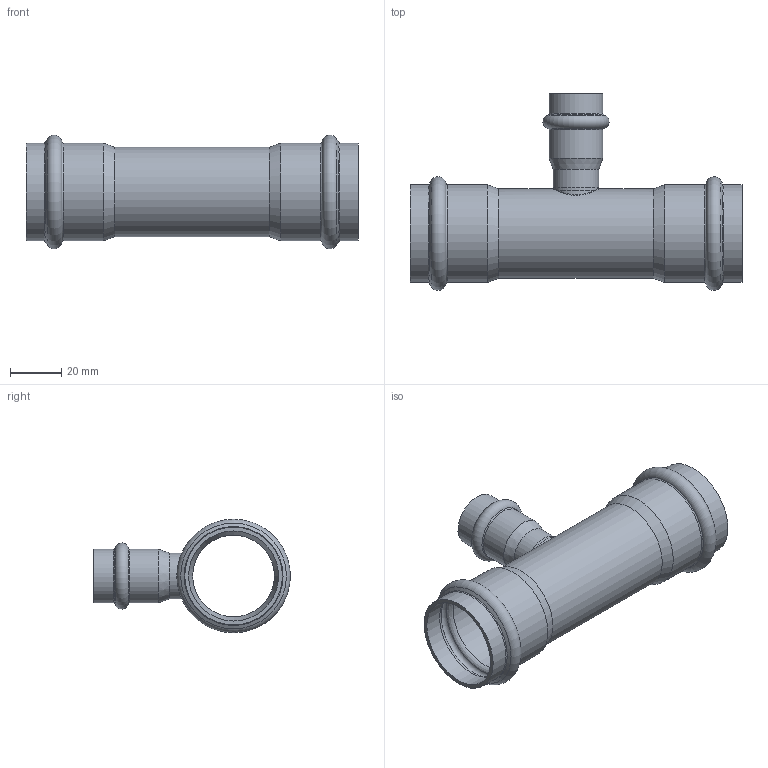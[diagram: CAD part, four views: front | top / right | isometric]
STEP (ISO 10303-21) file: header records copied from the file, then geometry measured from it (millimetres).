
FILE_DESCRIPTION((''),'2;1');
FILE_NAME('G:\Technics\CAD\Bauteile\035\69130351835(2).stp','2008-02-28T09:14:49',('herberg'),(''),'Autodesk Inventor 2008','Autodesk Inventor 2008','');
FILE_SCHEMA(('AUTOMOTIVE_DESIGN { 1 0 10303 214 1 1 1 1 }'));
Length unit declared in the file: millimetre
Products named in the file (3): 69130351835(2); LM_69130351835; 6924318HM(1)
Assembly tree (2 placements, depth 2):
  69130351835(2)
    LM_69130351835
    6924318HM(1)
Bounding box: 130 x 77.05 x 44.49 mm (x, y, z)
Volume: 26484.8 mm3; surface area: 35900.5 mm2
Topology: 2 solids, 2 shells, 55 faces, 115 edges, 64 vertices
Faces by surface type: cylinder 18, bspline 13, cone 12, torus 7, plane 5
Full cylindrical faces by diameter (mm): 15 x2, 18 x2, 18.15 x2, 21.15 x2, 32 x1, 35 x1, 35.25 x4, 38.25 x4
Entity records: 2957 total; most frequent: CARTESIAN_POINT 1976, DIRECTION 200, ORIENTED_EDGE 116, EDGE_LOOP 110, AXIS2_PLACEMENT_3D 100, EDGE_CURVE 58, VERTEX_POINT 56, FACE_OUTER_BOUND 55
